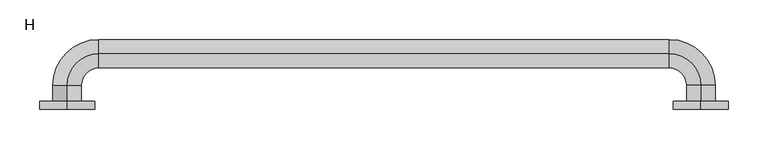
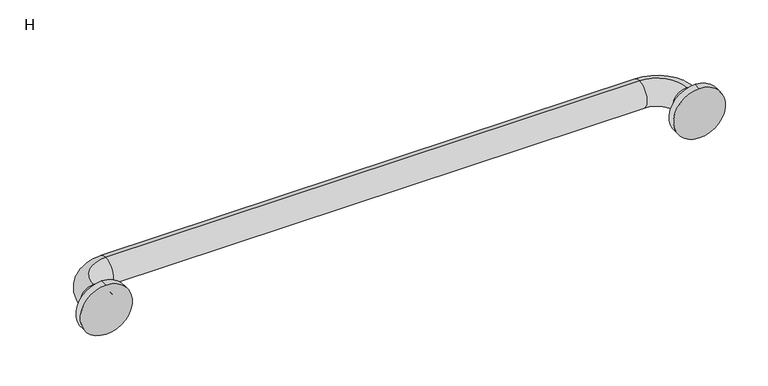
"""IFC4 building model written with IfcOpenShell, lengths in millimetres: flow terminal geometry, Barre d'appui - Horizontale.0001 : H."""

from ifc_helpers import new_model, si_unit, point, frame, frame_2d, origin, place, context, project, spatial, circle_curve, ellipse_curve, trimmed, segment, composite_curve, outline, extrude, source, transform, mapped, element, save
from ifc_brep_helpers import plane_surface, cylinder_surface, revolved_surface, advanced_brep


def h_af8cb1f5(model_context):
    return source(origin(), model_context, "Body", "SolidModel", [
        extrude(outline(composite_curve([segment(trimmed(circle_curve(frame_2d((680.0, -455.7956665)), 35.0), [point((645.0, -455.7956665))], [point((715.0, -455.7956665))], False, "CARTESIAN"), True, "CONTINUOUS"), segment(trimmed(circle_curve(frame_2d((680.0, -455.7956665)), 35.0), [point((715.0, -455.7956665))], [point((645.0, -455.7956665))], False, "CARTESIAN"), True, "CONTINUOUS")], self_intersect=False)), frame((0.0, 0.0, 0.0), z_axis=(0.0, 1.0, 0.0), x_axis=(0.0, 0.0, 1.0)), (0.0, 0.0, 1.0), 10.0),
        extrude(outline(composite_curve([segment(trimmed(circle_curve(frame_2d((680.0, -1255.7956665)), 35.0), [point((645.0, -1255.7956665))], [point((715.0, -1255.7956665))], False, "CARTESIAN"), True, "CONTINUOUS"), segment(trimmed(circle_curve(frame_2d((680.0, -1255.7956665)), 35.0), [point((715.0, -1255.7956665))], [point((645.0, -1255.7956665))], False, "CARTESIAN"), True, "CONTINUOUS")], self_intersect=False)), frame((0.0, 0.0, 0.0), z_axis=(0.0, 1.0, 0.0), x_axis=(0.0, 0.0, 1.0)), (0.0, 0.0, 1.0), 10.0),
        advanced_brep(
        [(-455.7956665, 10.0, 698.0), (-455.7956665, 10.0, 662.0), (-455.7956665, 30.0, 698.0), (-455.7956665, 30.0, 662.0), (-495.7956665, 70.0, 662.0), (-495.7956665, 70.0, 698.0), (-1215.7956665, 70.0, 698.0), (-1215.7956665, 70.0, 662.0), (-1255.7956665, 30.0, 662.0), (-1255.7956665, 30.0, 698.0), (-1255.7956665, 10.0, 698.0), (-1255.7956665, 10.0, 662.0)],
        [
            (0, 1, circle_curve(frame((-455.7956665, 10.0, 680.0), z_axis=(0.0, -1.0, 0.0), x_axis=(0.0, 0.0, -1.0)), 18.0)),
            (1, 0, circle_curve(frame((-455.7956665, 10.0, 680.0), z_axis=(0.0, -1.0, 0.0), x_axis=(0.0, 0.0, -1.0)), 18.0)),
            (0, 2),
            (2, 3, circle_curve(frame((-455.7956665, 30.0, 680.0), z_axis=(0.0, -1.0, 0.0), x_axis=(0.0, 0.0, -1.0)), 18.0)),
            (3, 1),
            (3, 2, circle_curve(frame((-455.7956665, 30.0, 680.0), z_axis=(0.0, -1.0, 0.0), x_axis=(0.0, 0.0, -1.0)), 18.0)),
            (4, 3, circle_curve(frame((-495.7956665, 30.0, 662.0), z_axis=(0.0, 0.0, -1.0), x_axis=(1.0, 0.0, 0.0)), 40.0)),
            (2, 5, circle_curve(frame((-495.7956665, 30.0, 698.0), z_axis=(0.0, 0.0, 1.0), x_axis=(1.0, 0.0, 0.0)), 40.0)),
            (5, 4, circle_curve(frame((-495.7956665, 70.0, 680.0), z_axis=(1.0, 0.0, 0.0), x_axis=(0.0, 0.0, -1.0)), 18.0)),
            (4, 5, circle_curve(frame((-495.7956665, 70.0, 680.0), z_axis=(1.0, 0.0, 0.0), x_axis=(0.0, 0.0, -1.0)), 18.0)),
            (5, 6),
            (6, 7, circle_curve(frame((-1215.7956665, 70.0, 680.0), z_axis=(1.0, 0.0, 0.0), x_axis=(0.0, 0.0, -1.0)), 18.0)),
            (7, 4),
            (7, 6, circle_curve(frame((-1215.7956665, 70.0, 680.0), z_axis=(1.0, 0.0, 0.0), x_axis=(0.0, 0.0, -1.0)), 18.0)),
            (8, 7, circle_curve(frame((-1215.7956665, 30.0, 662.0), z_axis=(0.0, 0.0, -1.0), x_axis=(0.0, 1.0, 0.0)), 40.0)),
            (6, 9, circle_curve(frame((-1215.7956665, 30.0, 698.0), z_axis=(0.0, 0.0, 1.0), x_axis=(0.0, 1.0, 0.0)), 40.0)),
            (9, 8, circle_curve(frame((-1255.7956665, 30.0, 680.0), z_axis=(0.0, 1.0, 0.0), x_axis=(0.0, 0.0, -1.0)), 18.0)),
            (8, 9, circle_curve(frame((-1255.7956665, 30.0, 680.0), z_axis=(0.0, 1.0, 0.0), x_axis=(0.0, 0.0, -1.0)), 18.0)),
            (10, 11, circle_curve(frame((-1255.7956665, 10.0, 680.0), z_axis=(0.0, -1.0, 0.0), x_axis=(0.0, 0.0, -1.0)), 18.0)),
            (11, 10, circle_curve(frame((-1255.7956665, 10.0, 680.0), z_axis=(0.0, -1.0, 0.0), x_axis=(0.0, 0.0, -1.0)), 18.0)),
            (9, 10),
            (11, 8),
        ],
        [
            plane_surface(frame((-455.7956665, 10.0, 680.0), z_axis=(0.0, -1.0, 0.0), x_axis=(0.0, 0.0, 1.0))),
            cylinder_surface(frame((-455.7956665, 10.0, 680.0), z_axis=(0.0, -1.0, 0.0), x_axis=(0.0, 0.0, -1.0)), 18.0),
            revolved_surface(trimmed(ellipse_curve(frame((-455.7956665, 30.0, 680.0), z_axis=(0.0, -1.0, 0.0), x_axis=(0.0, 0.0, -1.0)), 18.0, 18.0), [point((-455.7956665, 30.0, 698.0))], [point((-455.7956665, 30.0, 662.0))], True, "CARTESIAN"), (-495.7956665, 30.0, 680.0), (0.0, 0.0, 1.0)),
            revolved_surface(trimmed(ellipse_curve(frame((-455.7956665, 30.0, 680.0), z_axis=(0.0, -1.0, 0.0), x_axis=(0.0, 0.0, -1.0)), 18.0, 18.0), [point((-455.7956665, 30.0, 662.0))], [point((-455.7956665, 30.0, 698.0))], True, "CARTESIAN"), (-495.7956665, 30.0, 680.0), (0.0, 0.0, 1.0)),
            cylinder_surface(frame((-495.7956665, 70.0, 680.0), z_axis=(1.0, 0.0, 0.0), x_axis=(0.0, 0.0, -1.0)), 18.0),
            revolved_surface(trimmed(ellipse_curve(frame((-1215.7956665, 70.0, 680.0), z_axis=(1.0, 0.0, 0.0), x_axis=(0.0, 0.0, -1.0)), 18.0, 18.0), [point((-1215.7956665, 70.0, 698.0))], [point((-1215.7956665, 70.0, 662.0))], True, "CARTESIAN"), (-1215.7956665, 30.0, 680.0), (0.0, 0.0, 1.0)),
            revolved_surface(trimmed(ellipse_curve(frame((-1215.7956665, 70.0, 680.0), z_axis=(1.0, 0.0, 0.0), x_axis=(0.0, 0.0, -1.0)), 18.0, 18.0), [point((-1215.7956665, 70.0, 662.0))], [point((-1215.7956665, 70.0, 698.0))], True, "CARTESIAN"), (-1215.7956665, 30.0, 680.0), (0.0, 0.0, 1.0)),
            plane_surface(frame((-1255.7956665, 10.0, 680.0), z_axis=(0.0, -1.0, 0.0), x_axis=(0.0, 0.0, 1.0))),
            cylinder_surface(frame((-1255.7956665, 30.0, 680.0), z_axis=(0.0, 1.0, 0.0), x_axis=(0.0, 0.0, -1.0)), 18.0),
        ],
        [
            (0, [[1, 2]]),
            (1, [[-1, 3, 4, 5]]),
            (1, [[-2, -5, 6, -3]]),
            (2, [[7, -4, 8, 9]]),
            (3, [[-8, -6, -7, 10]]),
            (4, [[-9, 11, 12, 13]]),
            (4, [[-10, -13, 14, -11]]),
            (5, [[15, -12, 16, 17]]),
            (6, [[-16, -14, -15, 18]]),
            (7, [[19, 20]]),
            (8, [[-17, 21, -20, 22]]),
            (8, [[-18, -22, -19, -21]]),
        ],
    ),
    ])


if __name__ == "__main__":
    model = new_model("IFC4")
    model_context = context("Model", 3, world=origin())
    ifc_project = project(units=[si_unit("LENGTHUNIT", "METRE", prefix="MILLI")], contexts=[model_context])
    site = spatial("IfcSite", under=ifc_project)
    building = spatial("IfcBuilding", under=site)
    placement = place(None, origin())
    h_shape = h_af8cb1f5(model_context)
    element("IfcFlowTerminal", 1, ObjectType="Barre d'appui - Horizontale.0001 : H", at=placement, inside=building, context=model_context, shape_type="MappedRepresentation", body=[
        mapped(h_shape, transform((0.0, 0.0, 0.0), x_axis=(1.0, 0.0, 0.0), y_axis=(0.0, 1.0, 0.0), z_axis=(0.0, 0.0, 1.0))),
    ])
    save(model, "model.ifc")
